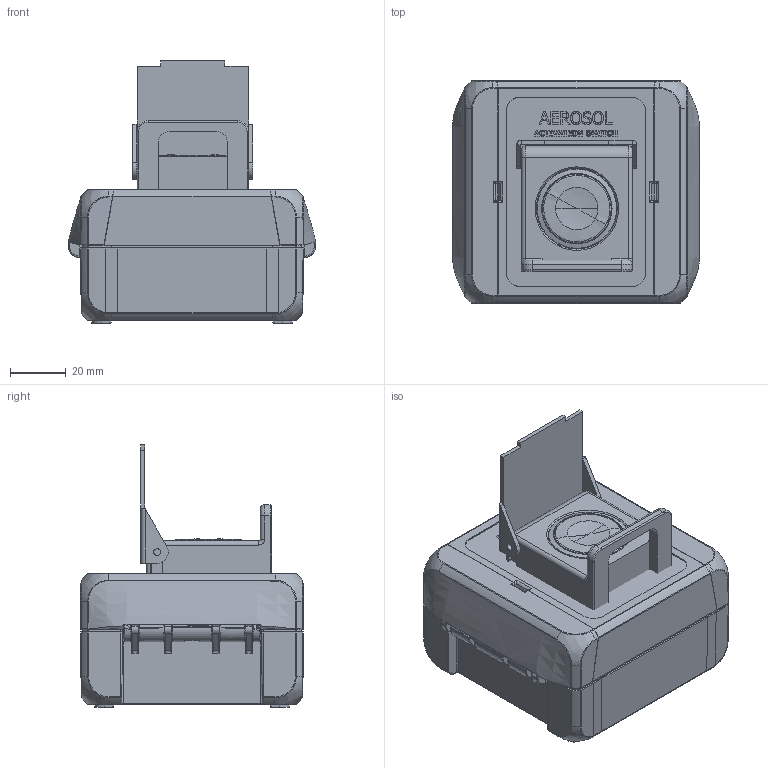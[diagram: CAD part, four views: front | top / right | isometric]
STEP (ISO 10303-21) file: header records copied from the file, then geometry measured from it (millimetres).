
FILE_DESCRIPTION(/* description */ ('Aerosol Activation switch'),/* implementation_level */ '2;1');
FILE_NAME(/* name */ '2878010012600.stp',/* time_stamp */ '2026-06-15T23:05:10+02:00',/* author */ ('tokti'),/* organization */ (''),/* preprocessor_version */ 'ST-DEVELOPER v20.1',/* originating_system */ 'Autodesk Inventor 2026',/* authorisation */ '');
FILE_SCHEMA (('AUTOMOTIVE_DESIGN { 1 0 10303 214 3 1 1 }'));
Products named in the file (5): 2878010012600; 287898010012278; 287898990012601; XB5AA21; MCADID0002457_3D-simplified
Assembly tree (4 placements, depth 2):
  2878010012600
    287898010012278
    287898990012601
    XB5AA21
    MCADID0002457_3D-simplified
Bounding box: 89 x 80 x 94.21 mm (x, y, z)
Volume: 142067.5 mm3; surface area: 114955.1 mm2
Topology: 15 solids, 15 shells, 3389 faces, 8959 edges, 5632 vertices
Faces by surface type: plane 1545, cylinder 947, bspline 665, cone 91, torus 80, sphere 61
Full cylindrical faces by diameter (mm): 2.4 x2, 2.5 x8, 2.7 x2, 3.5 x4, 4 x6, 4.25 x4, 6 x4, 21 x2, 21.75 x1, 22.395 x1, 24.7 x1, 25.1 x1, 28.5 x1, 29 x2, 32 x1
Entity records: 182721 total; most frequent: CARTESIAN_POINT 98171, ORIENTED_EDGE 17826, DIRECTION 16286, EDGE_CURVE 8913, VERTEX_POINT 5632, AXIS2_PLACEMENT_3D 5619, LINE 5048, VECTOR 5048
